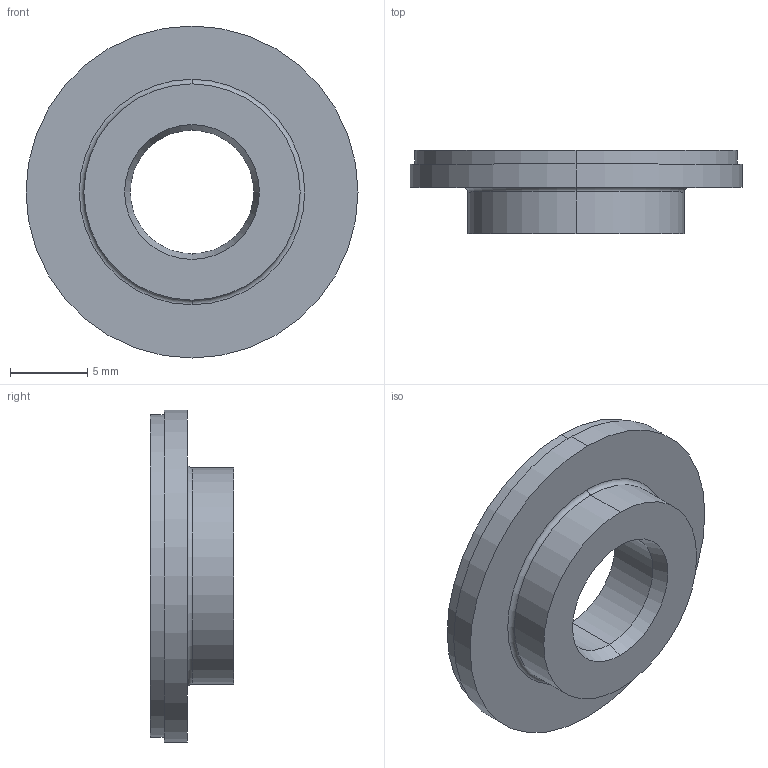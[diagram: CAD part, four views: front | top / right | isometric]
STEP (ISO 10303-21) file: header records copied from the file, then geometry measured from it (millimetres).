
FILE_DESCRIPTION (( 'STEP AP214' ), '1' );
FILE_NAME ('MRA022HP0880DMN00D01_00.STEP', '2020-08-25T11:18:21', ( '' ), ( '' ), 'SwSTEP 2.0', 'SolidWorks 2016', '' );
FILE_SCHEMA (( 'AUTOMOTIVE_DESIGN' ));
Length unit declared in the file: millimetre
Products named in the file (3): Elastoferitni obroc_20.9_12.9_0.9; Prirobnica 21.5_8_4.5; MRA022HP0880DMN00D01_00
Assembly tree (2 placements, depth 2):
  MRA022HP0880DMN00D01_00
    Prirobnica 21.5_8_4.5
    Elastoferitni obroc_20.9_12.9_0.9
Bounding box: 21.5 x 5.4 x 21.5 mm (x, y, z)
Volume: 967.5 mm3; surface area: 1479.9 mm2
Topology: 2 solids, 2 shells, 19 faces, 38 edges, 24 vertices
Faces by surface type: cylinder 10, plane 5, torus 2, cone 2
Entity records: 624 total; most frequent: DIRECTION 112, CARTESIAN_POINT 86, ORIENTED_EDGE 76, AXIS2_PLACEMENT_3D 50, EDGE_CURVE 38, CIRCLE 26, VERTEX_POINT 24, EDGE_LOOP 24
